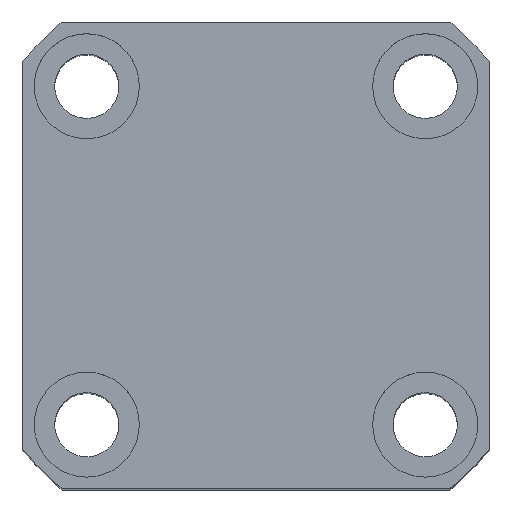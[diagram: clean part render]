
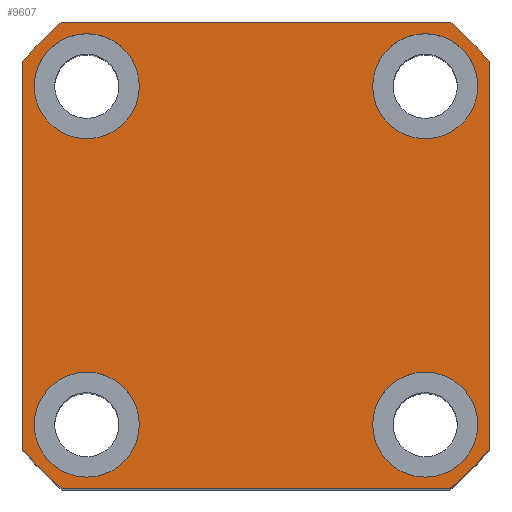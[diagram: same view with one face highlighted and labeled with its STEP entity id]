
A CAD part, top view. The second image highlights one B-rep face of the part: STEP entity #9607.
In plain terms, the highlighted planar face has unit normal (0, 0, 1).
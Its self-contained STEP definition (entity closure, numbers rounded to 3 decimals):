
#14 = AXIS2_PLACEMENT_3D ( 'NONE', #7812, #9460, #1098 ) ;
#138 = CARTESIAN_POINT ( 'NONE',  ( -29., 29., 60. ) ) ;
#150 = DIRECTION ( 'NONE',  ( 1., 0., 0. ) ) ;
#219 = EDGE_LOOP ( 'NONE', ( #10570, #4062 ) ) ;
#512 = VECTOR ( 'NONE', #8951, 1000. ) ;
#552 = DIRECTION ( 'NONE',  ( 1., 0., 0. ) ) ;
#587 = AXIS2_PLACEMENT_3D ( 'NONE', #4401, #1956, #6074 ) ;
#591 = DIRECTION ( 'NONE',  ( 1., 0., 0. ) ) ;
#668 = CARTESIAN_POINT ( 'NONE',  ( -33.226, -40., 60. ) ) ;
#675 = EDGE_CURVE ( 'NONE', #4916, #2019, #7082, .T. ) ;
#717 = CARTESIAN_POINT ( 'NONE',  ( -38., -29., 60. ) ) ;
#762 = DIRECTION ( 'NONE',  ( 0., 0., 1. ) ) ;
#784 = CARTESIAN_POINT ( 'NONE',  ( -20., 29., 60. ) ) ;
#1098 = DIRECTION ( 'NONE',  ( 1., 0., 0. ) ) ;
#1146 = LINE ( 'NONE', #8233, #8836 ) ;
#1160 = AXIS2_PLACEMENT_3D ( 'NONE', #1370, #4710, #552 ) ;
#1184 = DIRECTION ( 'NONE',  ( 1., 0., 0. ) ) ;
#1302 = LINE ( 'NONE', #6592, #512 ) ;
#1370 = CARTESIAN_POINT ( 'NONE',  ( -29., 29., 60. ) ) ;
#1494 = CARTESIAN_POINT ( 'NONE',  ( -33.226, -40., 60. ) ) ;
#1708 = VERTEX_POINT ( 'NONE', #784 ) ;
#1723 = CIRCLE ( 'NONE', #1160, 9. ) ;
#1771 = CARTESIAN_POINT ( 'NONE',  ( 0., 0., 60. ) ) ;
#1956 = DIRECTION ( 'NONE',  ( 0., 0., 1. ) ) ;
#2019 = VERTEX_POINT ( 'NONE', #8018 ) ;
#2055 = CIRCLE ( 'NONE', #3899, 9. ) ;
#2096 = DIRECTION ( 'NONE',  ( 0., 0., 1. ) ) ;
#2225 = EDGE_CURVE ( 'NONE', #5705, #9803, #9203, .T. ) ;
#2242 = FACE_BOUND ( 'NONE', #9102, .T. ) ;
#2322 = DIRECTION ( 'NONE',  ( 1., 0., 0. ) ) ;
#2362 = CIRCLE ( 'NONE', #4751, 9. ) ;
#2492 = FACE_OUTER_BOUND ( 'NONE', #5592, .T. ) ;
#2828 = VERTEX_POINT ( 'NONE', #8364 ) ;
#2910 = VECTOR ( 'NONE', #8661, 1000. ) ;
#3154 = DIRECTION ( 'NONE',  ( -1., 0., 0. ) ) ;
#3212 = DIRECTION ( 'NONE',  ( 1., 0., 0. ) ) ;
#3427 = DIRECTION ( 'NONE',  ( 0., 0., 1. ) ) ;
#3529 = AXIS2_PLACEMENT_3D ( 'NONE', #4266, #7691, #9214 ) ;
#3566 = ORIENTED_EDGE ( 'NONE', *, *, #7665, .F. ) ;
#3674 = EDGE_CURVE ( 'NONE', #9803, #8151, #1302, .T. ) ;
#3705 = VERTEX_POINT ( 'NONE', #717 ) ;
#3728 = ORIENTED_EDGE ( 'NONE', *, *, #7511, .F. ) ;
#3735 = CARTESIAN_POINT ( 'NONE',  ( 40., -33.226, 60. ) ) ;
#3739 = CIRCLE ( 'NONE', #8269, 9. ) ;
#3833 = PLANE ( 'NONE',  #587 ) ;
#3899 = AXIS2_PLACEMENT_3D ( 'NONE', #6182, #4355, #1184 ) ;
#4034 = CIRCLE ( 'NONE', #3529, 9. ) ;
#4062 = ORIENTED_EDGE ( 'NONE', *, *, #5750, .F. ) ;
#4088 = CIRCLE ( 'NONE', #8259, 52. ) ;
#4266 = CARTESIAN_POINT ( 'NONE',  ( 29., 29., 60. ) ) ;
#4343 = CARTESIAN_POINT ( 'NONE',  ( 20., -29., 60. ) ) ;
#4355 = DIRECTION ( 'NONE',  ( 0., 0., 1. ) ) ;
#4387 = VERTEX_POINT ( 'NONE', #7193 ) ;
#4401 = CARTESIAN_POINT ( 'NONE',  ( 0., 0., 60. ) ) ;
#4464 = ORIENTED_EDGE ( 'NONE', *, *, #2225, .T. ) ;
#4502 = VERTEX_POINT ( 'NONE', #10503 ) ;
#4559 = DIRECTION ( 'NONE',  ( 0., 0., 1. ) ) ;
#4705 = ORIENTED_EDGE ( 'NONE', *, *, #9508, .T. ) ;
#4710 = DIRECTION ( 'NONE',  ( 0., 0., 1. ) ) ;
#4750 = FACE_BOUND ( 'NONE', #219, .T. ) ;
#4751 = AXIS2_PLACEMENT_3D ( 'NONE', #9851, #762, #6768 ) ;
#4784 = ORIENTED_EDGE ( 'NONE', *, *, #6153, .T. ) ;
#4863 = EDGE_LOOP ( 'NONE', ( #9104, #7990 ) ) ;
#4892 = EDGE_CURVE ( 'NONE', #7606, #4502, #4034, .T. ) ;
#4916 = VERTEX_POINT ( 'NONE', #4343 ) ;
#4946 = DIRECTION ( 'NONE',  ( 0., 0., 1. ) ) ;
#4952 = VERTEX_POINT ( 'NONE', #8433 ) ;
#5005 = FACE_BOUND ( 'NONE', #6655, .T. ) ;
#5117 = CARTESIAN_POINT ( 'NONE',  ( -20., -29., 60. ) ) ;
#5176 = DIRECTION ( 'NONE',  ( 0., 0., 1. ) ) ;
#5267 = ORIENTED_EDGE ( 'NONE', *, *, #3674, .T. ) ;
#5283 = VERTEX_POINT ( 'NONE', #6366 ) ;
#5310 = CARTESIAN_POINT ( 'NONE',  ( 29., -29., 60. ) ) ;
#5441 = EDGE_CURVE ( 'NONE', #4387, #2828, #1146, .T. ) ;
#5484 = CARTESIAN_POINT ( 'NONE',  ( 33.226, -40., 60. ) ) ;
#5592 = EDGE_LOOP ( 'NONE', ( #10788, #4705, #9098, #4784, #4464, #5267, #9256, #7418 ) ) ;
#5705 = VERTEX_POINT ( 'NONE', #5484 ) ;
#5750 = EDGE_CURVE ( 'NONE', #3705, #6456, #2055, .T. ) ;
#6071 = DIRECTION ( 'NONE',  ( 1., 0., 0. ) ) ;
#6074 = DIRECTION ( 'NONE',  ( 1., 0., 0. ) ) ;
#6097 = CIRCLE ( 'NONE', #10821, 9. ) ;
#6153 = EDGE_CURVE ( 'NONE', #8010, #5705, #6621, .T. ) ;
#6182 = CARTESIAN_POINT ( 'NONE',  ( -29., -29., 60. ) ) ;
#6184 = DIRECTION ( 'NONE',  ( 1., 0., 0. ) ) ;
#6212 = CARTESIAN_POINT ( 'NONE',  ( 40., 33.226, 60. ) ) ;
#6366 = CARTESIAN_POINT ( 'NONE',  ( -40., -33.226, 60. ) ) ;
#6456 = VERTEX_POINT ( 'NONE', #5117 ) ;
#6592 = CARTESIAN_POINT ( 'NONE',  ( 40., 33.226, 60. ) ) ;
#6621 = LINE ( 'NONE', #1494, #9891 ) ;
#6632 = VERTEX_POINT ( 'NONE', #7500 ) ;
#6655 = EDGE_LOOP ( 'NONE', ( #3566, #10420 ) ) ;
#6740 = AXIS2_PLACEMENT_3D ( 'NONE', #10634, #8942, #591 ) ;
#6768 = DIRECTION ( 'NONE',  ( 1., 0., 0. ) ) ;
#6899 = CARTESIAN_POINT ( 'NONE',  ( 20., 29., 60. ) ) ;
#7076 = FACE_BOUND ( 'NONE', #4863, .T. ) ;
#7082 = CIRCLE ( 'NONE', #14, 9. ) ;
#7193 = CARTESIAN_POINT ( 'NONE',  ( 33.226, 40., 60. ) ) ;
#7306 = AXIS2_PLACEMENT_3D ( 'NONE', #8525, #2096, #8645 ) ;
#7374 = EDGE_CURVE ( 'NONE', #4502, #7606, #3739, .T. ) ;
#7418 = ORIENTED_EDGE ( 'NONE', *, *, #5441, .T. ) ;
#7500 = CARTESIAN_POINT ( 'NONE',  ( -40., 33.226, 60. ) ) ;
#7511 = EDGE_CURVE ( 'NONE', #4952, #1708, #8405, .T. ) ;
#7606 = VERTEX_POINT ( 'NONE', #6899 ) ;
#7665 = EDGE_CURVE ( 'NONE', #2019, #4916, #6097, .T. ) ;
#7691 = DIRECTION ( 'NONE',  ( 0., 0., 1. ) ) ;
#7812 = CARTESIAN_POINT ( 'NONE',  ( 29., -29., 60. ) ) ;
#7990 = ORIENTED_EDGE ( 'NONE', *, *, #4892, .F. ) ;
#8010 = VERTEX_POINT ( 'NONE', #668 ) ;
#8018 = CARTESIAN_POINT ( 'NONE',  ( 38., -29., 60. ) ) ;
#8151 = VERTEX_POINT ( 'NONE', #6212 ) ;
#8233 = CARTESIAN_POINT ( 'NONE',  ( -33.226, 40., 60. ) ) ;
#8259 = AXIS2_PLACEMENT_3D ( 'NONE', #9044, #4946, #3212 ) ;
#8269 = AXIS2_PLACEMENT_3D ( 'NONE', #9161, #10080, #10812 ) ;
#8364 = CARTESIAN_POINT ( 'NONE',  ( -33.226, 40., 60. ) ) ;
#8405 = CIRCLE ( 'NONE', #10647, 9. ) ;
#8433 = CARTESIAN_POINT ( 'NONE',  ( -38., 29., 60. ) ) ;
#8525 = CARTESIAN_POINT ( 'NONE',  ( 0., 0., 60. ) ) ;
#8585 = CARTESIAN_POINT ( 'NONE',  ( -40., 33.226, 60. ) ) ;
#8619 = LINE ( 'NONE', #8585, #2910 ) ;
#8645 = DIRECTION ( 'NONE',  ( 1., 0., 0. ) ) ;
#8661 = DIRECTION ( 'NONE',  ( 0., -1., 0. ) ) ;
#8711 = AXIS2_PLACEMENT_3D ( 'NONE', #1771, #5176, #150 ) ;
#8754 = ORIENTED_EDGE ( 'NONE', *, *, #9923, .F. ) ;
#8836 = VECTOR ( 'NONE', #3154, 1000. ) ;
#8891 = CIRCLE ( 'NONE', #7306, 52. ) ;
#8942 = DIRECTION ( 'NONE',  ( 0., 0., 1. ) ) ;
#8951 = DIRECTION ( 'NONE',  ( 0., 1., 0. ) ) ;
#9044 = CARTESIAN_POINT ( 'NONE',  ( 0., 0., 60. ) ) ;
#9098 = ORIENTED_EDGE ( 'NONE', *, *, #9767, .T. ) ;
#9102 = EDGE_LOOP ( 'NONE', ( #8754, #3728 ) ) ;
#9104 = ORIENTED_EDGE ( 'NONE', *, *, #7374, .F. ) ;
#9161 = CARTESIAN_POINT ( 'NONE',  ( 29., 29., 60. ) ) ;
#9203 = CIRCLE ( 'NONE', #8711, 52. ) ;
#9214 = DIRECTION ( 'NONE',  ( 1., 0., 0. ) ) ;
#9256 = ORIENTED_EDGE ( 'NONE', *, *, #9286, .T. ) ;
#9286 = EDGE_CURVE ( 'NONE', #8151, #4387, #4088, .T. ) ;
#9460 = DIRECTION ( 'NONE',  ( 0., 0., 1. ) ) ;
#9508 = EDGE_CURVE ( 'NONE', #6632, #5283, #8619, .T. ) ;
#9607 = ADVANCED_FACE ( 'NONE', ( #5005, #4750, #2242, #7076, #2492 ), #3833, .T. ) ;
#9767 = EDGE_CURVE ( 'NONE', #5283, #8010, #8891, .T. ) ;
#9803 = VERTEX_POINT ( 'NONE', #3735 ) ;
#9805 = CIRCLE ( 'NONE', #6740, 52. ) ;
#9851 = CARTESIAN_POINT ( 'NONE',  ( -29., -29., 60. ) ) ;
#9891 = VECTOR ( 'NONE', #2322, 1000. ) ;
#9923 = EDGE_CURVE ( 'NONE', #1708, #4952, #1723, .T. ) ;
#10080 = DIRECTION ( 'NONE',  ( 0., 0., 1. ) ) ;
#10420 = ORIENTED_EDGE ( 'NONE', *, *, #675, .F. ) ;
#10503 = CARTESIAN_POINT ( 'NONE',  ( 38., 29., 60. ) ) ;
#10570 = ORIENTED_EDGE ( 'NONE', *, *, #10583, .F. ) ;
#10583 = EDGE_CURVE ( 'NONE', #6456, #3705, #2362, .T. ) ;
#10634 = CARTESIAN_POINT ( 'NONE',  ( 0., 0., 60. ) ) ;
#10647 = AXIS2_PLACEMENT_3D ( 'NONE', #138, #3427, #6071 ) ;
#10720 = EDGE_CURVE ( 'NONE', #2828, #6632, #9805, .T. ) ;
#10788 = ORIENTED_EDGE ( 'NONE', *, *, #10720, .T. ) ;
#10812 = DIRECTION ( 'NONE',  ( 1., 0., 0. ) ) ;
#10821 = AXIS2_PLACEMENT_3D ( 'NONE', #5310, #4559, #6184 ) ;
